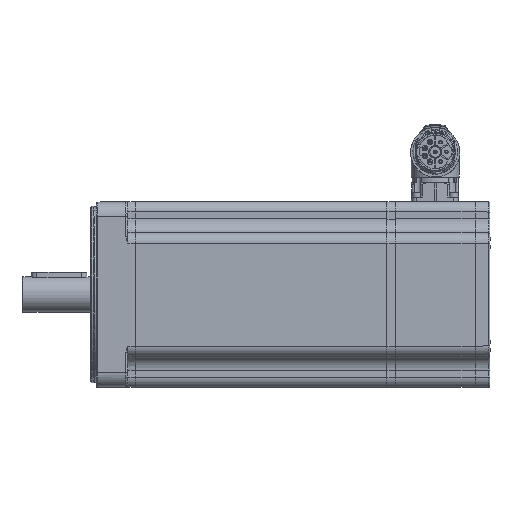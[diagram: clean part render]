
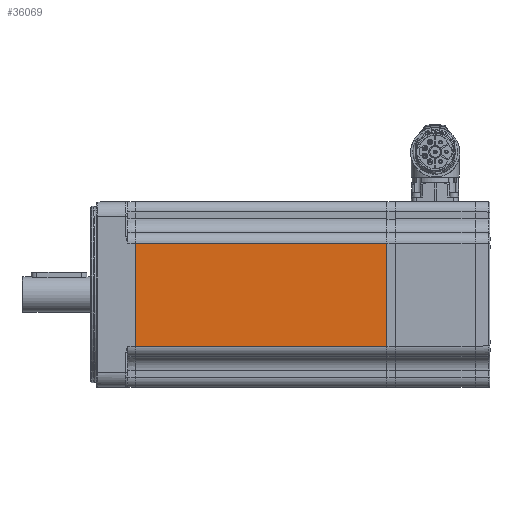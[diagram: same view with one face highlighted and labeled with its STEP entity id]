
A CAD part, left-side view. The second image highlights one B-rep face of the part: STEP entity #36069.
In plain terms, the highlighted planar face has unit normal (-1, 0, 0) as drawn and (1, 0, 0) by its records, which use the part's own axes.
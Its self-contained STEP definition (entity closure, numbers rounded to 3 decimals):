
#13293=LINE('',#52882,#15029);
#13311=LINE('',#52967,#15047);
#13318=LINE('',#53006,#15054);
#13319=LINE('',#53007,#15055);
#15029=VECTOR('',#42881,1000.);
#15047=VECTOR('',#42949,1000.);
#15054=VECTOR('',#42996,1000.);
#15055=VECTOR('',#42997,1000.);
#19223=ORIENTED_EDGE('',*,*,#24886,.T.);
#19224=ORIENTED_EDGE('',*,*,#24827,.T.);
#19225=ORIENTED_EDGE('',*,*,#24887,.T.);
#19226=ORIENTED_EDGE('',*,*,#24869,.T.);
#24827=EDGE_CURVE('',#27942,#27941,#13293,.T.);
#24869=EDGE_CURVE('',#27984,#27983,#13311,.T.);
#24886=EDGE_CURVE('',#27983,#27942,#13318,.T.);
#24887=EDGE_CURVE('',#27941,#27984,#13319,.T.);
#27941=VERTEX_POINT('',#52881);
#27942=VERTEX_POINT('',#52883);
#27983=VERTEX_POINT('',#52966);
#27984=VERTEX_POINT('',#52968);
#31262=EDGE_LOOP('',(#19223,#19224,#19225,#19226));
#33384=FACE_BOUND('',#31262,.T.);
#35037=PLANE('',#38158);
#36069=ADVANCED_FACE('',(#33384),#35037,.T.);
#38158=AXIS2_PLACEMENT_3D('',#53005,#42994,#42995);
#42881=DIRECTION('',(0.,0.,1.));
#42949=DIRECTION('',(0.,0.,-1.));
#42994=DIRECTION('',(1.,0.,0.));
#42995=DIRECTION('',(0.,0.,-1.));
#42996=DIRECTION('',(0.,1.,0.));
#42997=DIRECTION('',(0.,-1.,0.));
#52881=CARTESIAN_POINT('',(50.,136.5,27.75));
#52882=CARTESIAN_POINT('',(50.,136.5,-50.));
#52883=CARTESIAN_POINT('',(50.,136.5,-27.75));
#52966=CARTESIAN_POINT('',(50.,1.,-27.75));
#52967=CARTESIAN_POINT('',(50.,1.,-50.));
#52968=CARTESIAN_POINT('',(50.,1.,27.75));
#53005=CARTESIAN_POINT('',(50.,200.,-50.));
#53006=CARTESIAN_POINT('',(50.,200.,-27.75));
#53007=CARTESIAN_POINT('',(50.,200.,27.75));
